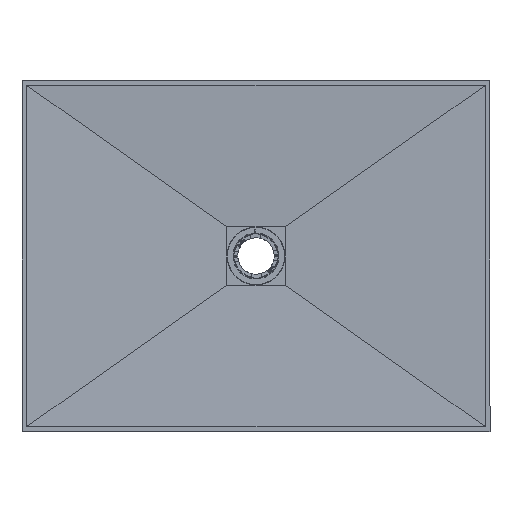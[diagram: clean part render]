
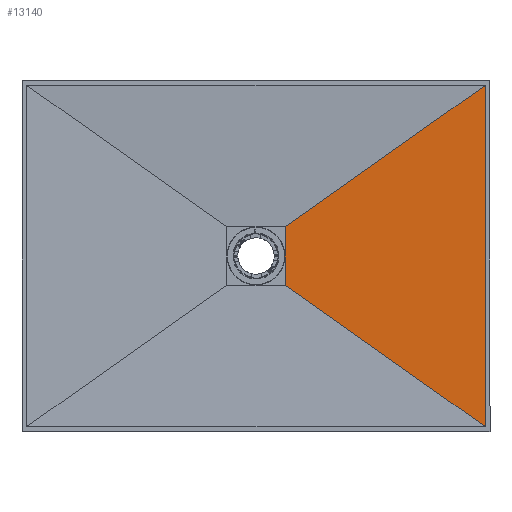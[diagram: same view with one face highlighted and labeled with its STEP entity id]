
A CAD part, top view. The second image highlights one B-rep face of the part: STEP entity #13140.
In plain terms, the highlighted planar face has unit normal (-0.034, 0, 0.999).
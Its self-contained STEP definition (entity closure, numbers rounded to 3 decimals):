
#2348=FACE_OUTER_BOUND('',#3093,.T.);
#3093=EDGE_LOOP('',(#8808,#8809,#8810,#8811));
#3902=LINE('',#18662,#4523);
#3908=LINE('',#18674,#4529);
#3910=LINE('',#18677,#4531);
#3911=LINE('',#18679,#4532);
#4523=VECTOR('',#15362,10.);
#4529=VECTOR('',#15370,10.);
#4531=VECTOR('',#15374,10.);
#4532=VECTOR('',#15377,10.);
#5139=VERTEX_POINT('',#18659);
#5140=VERTEX_POINT('',#18661);
#5143=VERTEX_POINT('',#18668);
#5145=VERTEX_POINT('',#18672);
#6605=EDGE_CURVE('',#5139,#5140,#3902,.F.);
#6611=EDGE_CURVE('',#5143,#5145,#3908,.F.);
#6613=EDGE_CURVE('',#5139,#5143,#3910,.T.);
#6614=EDGE_CURVE('',#5140,#5145,#3911,.T.);
#8808=ORIENTED_EDGE('',*,*,#6605,.F.);
#8809=ORIENTED_EDGE('',*,*,#6613,.T.);
#8810=ORIENTED_EDGE('',*,*,#6611,.T.);
#8811=ORIENTED_EDGE('',*,*,#6614,.F.);
#13070=PLANE('',#13978);
#13140=ADVANCED_FACE('',(#2348),#13070,.F.);
#13978=AXIS2_PLACEMENT_3D('',#18678,#15375,#15376);
#15362=DIRECTION('',(0.,1.,0.));
#15370=DIRECTION('',(0.,1.,0.));
#15374=DIRECTION('',(-0.816,-0.577,-0.027));
#15375=DIRECTION('center_axis',(0.034,0.,
-0.999));
#15376=DIRECTION('ref_axis',(-0.999,0.,-0.034));
#15377=DIRECTION('',(-0.816,0.577,-0.027));
#18659=CARTESIAN_POINT('',(441.479,277.17,20.));
#18661=CARTESIAN_POINT('',(441.479,-611.77,20.));
#18662=CARTESIAN_POINT('',(441.479,54.85,20.));
#18668=CARTESIAN_POINT('',(-78.921,-90.83,2.5));
#18672=CARTESIAN_POINT('',(-78.921,-243.77,2.5));
#18674=CARTESIAN_POINT('',(-78.921,54.95,2.5));
#18677=CARTESIAN_POINT('',(43.861,-4.005,6.629));
#18678=CARTESIAN_POINT('Origin',(441.458,277.2,19.999));
#18679=CARTESIAN_POINT('',(232.093,-463.704,12.959));
